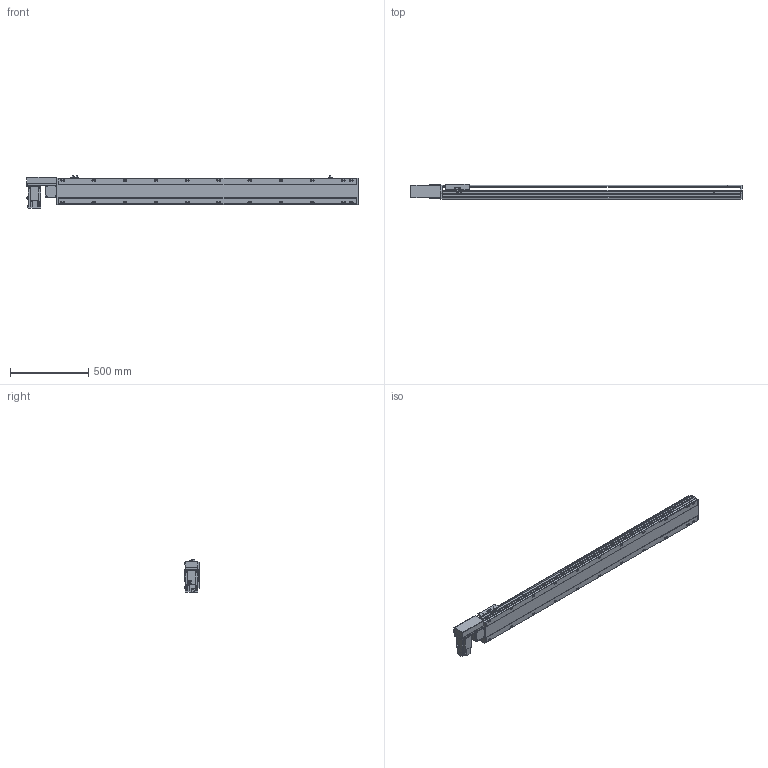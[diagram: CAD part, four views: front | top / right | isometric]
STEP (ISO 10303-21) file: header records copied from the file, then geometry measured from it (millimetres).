
FILE_DESCRIPTION( ( 'STEP AP214' ), '1' );
FILE_NAME( 'x:/temp/worker_4/temp/exporttempdir_2248_272_EGZJu/format_0/PBS170-P40-S1650-R-T75-C1-N(0).stp', '2022-06-07T07:30:56', ( 'License CC BY-ND 4.0' ), ( 'CADENAS' ), ' ', 'PARTsolutions', ' ' );
FILE_SCHEMA( ( 'AUTOMOTIVE_DESIGN { 1 0 10303 214 1 1 1 1 }' ) );
Length unit declared in the file: millimetre
Products named in the file (7): PBS170-P40-S1650-R-T75-C1-N(0); _PBS170-S1650()_body; _PBS170T-R_motors; _T75-p1; _PBS170_sliser; _PBS170_plant; _PBS170_sensor
Assembly tree (8 placements, depth 2):
  PBS170-P40-S1650-R-T75-C1-N(0)
    _PBS170-S1650()_body
    _PBS170T-R_motors
    _T75-p1
    _PBS170_sliser
    _PBS170_plant
    _PBS170_sensor  x3
Bounding box: 2128 x 97 x 205.3 mm (x, y, z)
Volume: 15619127.4 mm3; surface area: 2000026.9 mm2
Topology: 8 solids, 8 shells, 1130 faces, 2995 edges, 1952 vertices
Faces by surface type: plane 705, cylinder 363, cone 52, sphere 8, torus 2
Full cylindrical faces by diameter (mm): 3.242 x4, 4 x2, 4.4 x4, 4.5 x6, 4.917 x4, 6 x9, 6.647 x30, 7 x2, 7.5 x4, 8 x8, 8.5 x22, 10 x4, 10.5 x22, 11 x2, 30 x2, 40 x1, 70 x1
Entity records: 41666 total; most frequent: CARTESIAN_POINT 6725, DIRECTION 5510, ORIENTED_EDGE 5208, EDGE_CURVE 2604, AXIS2_PLACEMENT_3D 1927, VERTEX_POINT 1802, LINE 1656, VECTOR 1656
